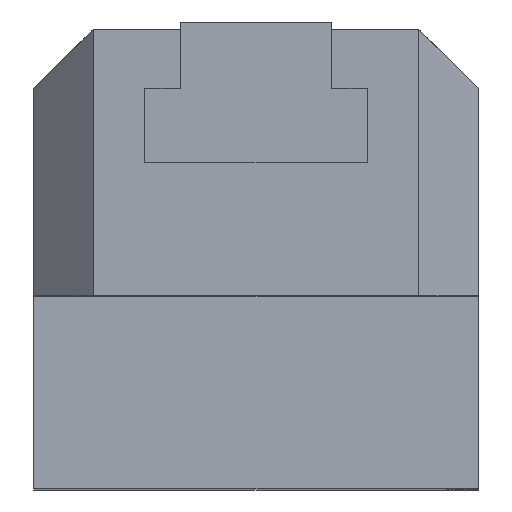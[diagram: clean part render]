
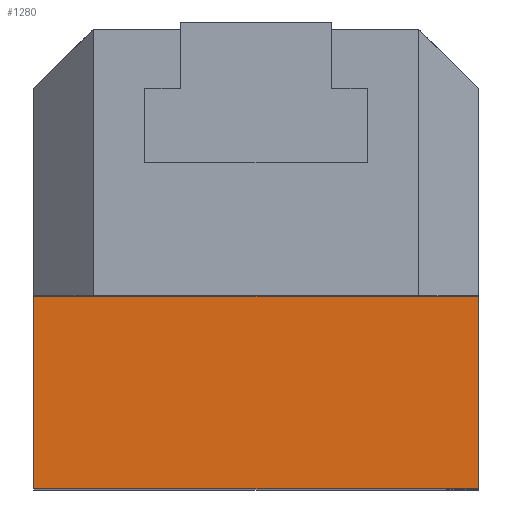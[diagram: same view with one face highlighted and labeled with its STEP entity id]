
A CAD part, top view. The second image highlights one B-rep face of the part: STEP entity #1280.
In plain terms, the highlighted planar face has unit normal (0, 0, 1).
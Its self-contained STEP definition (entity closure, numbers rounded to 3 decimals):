
#765 = VERTEX_POINT ( 'NONE', #3369 ) ;
#821 = EDGE_CURVE ( 'NONE', #831, #1083, #3535, .T. ) ;
#831 = VERTEX_POINT ( 'NONE', #3518 ) ;
#987 = EDGE_CURVE ( 'NONE', #1300, #831, #3463, .T. ) ;
#998 = EDGE_CURVE ( 'NONE', #765, #1083, #3673, .T. ) ;
#1083 = VERTEX_POINT ( 'NONE', #4250 ) ;
#1174 = EDGE_CURVE ( 'NONE', #765, #1300, #4329, .T. ) ;
#1177 = ORIENTED_EDGE ( 'NONE', *, *, #821, .T. ) ;
#1280 = ADVANCED_FACE ( 'NONE', ( #4375 ), #4458, .F. ) ;
#1281 = ORIENTED_EDGE ( 'NONE', *, *, #998, .F. ) ;
#1282 = EDGE_LOOP ( 'NONE', ( #1373, #1366, #1177, #1281 ) ) ;
#1300 = VERTEX_POINT ( 'NONE', #4483 ) ;
#1366 = ORIENTED_EDGE ( 'NONE', *, *, #987, .T. ) ;
#1373 = ORIENTED_EDGE ( 'NONE', *, *, #1174, .T. ) ;
#3369 = CARTESIAN_POINT ( 'NONE',  ( 30., 26., 50. ) ) ;
#3462 = CARTESIAN_POINT ( 'NONE',  ( -30., 127.194, 50. ) ) ;
#3463 = LINE ( 'NONE', #3462, #3466 ) ;
#3465 = DIRECTION ( 'NONE',  ( 0., -1., 0. ) ) ;
#3466 = VECTOR ( 'NONE', #3465, 1000. ) ;
#3518 = CARTESIAN_POINT ( 'NONE',  ( -30., 0., 50. ) ) ;
#3527 = DIRECTION ( 'NONE',  ( 1., 0., 0. ) ) ;
#3528 = VECTOR ( 'NONE', #3527, 1000. ) ;
#3534 = CARTESIAN_POINT ( 'NONE',  ( 30., 0., 50. ) ) ;
#3535 = LINE ( 'NONE', #3534, #3528 ) ;
#3657 = VECTOR ( 'NONE', #3665, 1000. ) ;
#3665 = DIRECTION ( 'NONE',  ( 0., -1., 0. ) ) ;
#3666 = CARTESIAN_POINT ( 'NONE',  ( 30., 127.194, 50. ) ) ;
#3673 = LINE ( 'NONE', #3666, #3657 ) ;
#4250 = CARTESIAN_POINT ( 'NONE',  ( 30., 0., 50. ) ) ;
#4329 = LINE ( 'NONE', #4394, #4444 ) ;
#4360 = DIRECTION ( 'NONE',  ( -1., 0., 0. ) ) ;
#4361 = DIRECTION ( 'NONE',  ( 0., 0., -1. ) ) ;
#4373 = AXIS2_PLACEMENT_3D ( 'NONE', #4378, #4361, #4360 ) ;
#4375 = FACE_OUTER_BOUND ( 'NONE', #1282, .T. ) ;
#4378 = CARTESIAN_POINT ( 'NONE',  ( 30., 127.194, 50. ) ) ;
#4394 = CARTESIAN_POINT ( 'NONE',  ( 30., 26., 50. ) ) ;
#4443 = DIRECTION ( 'NONE',  ( -1., 0., 0. ) ) ;
#4444 = VECTOR ( 'NONE', #4443, 1000. ) ;
#4458 = PLANE ( 'NONE',  #4373 ) ;
#4483 = CARTESIAN_POINT ( 'NONE',  ( -30., 26., 50. ) ) ;
